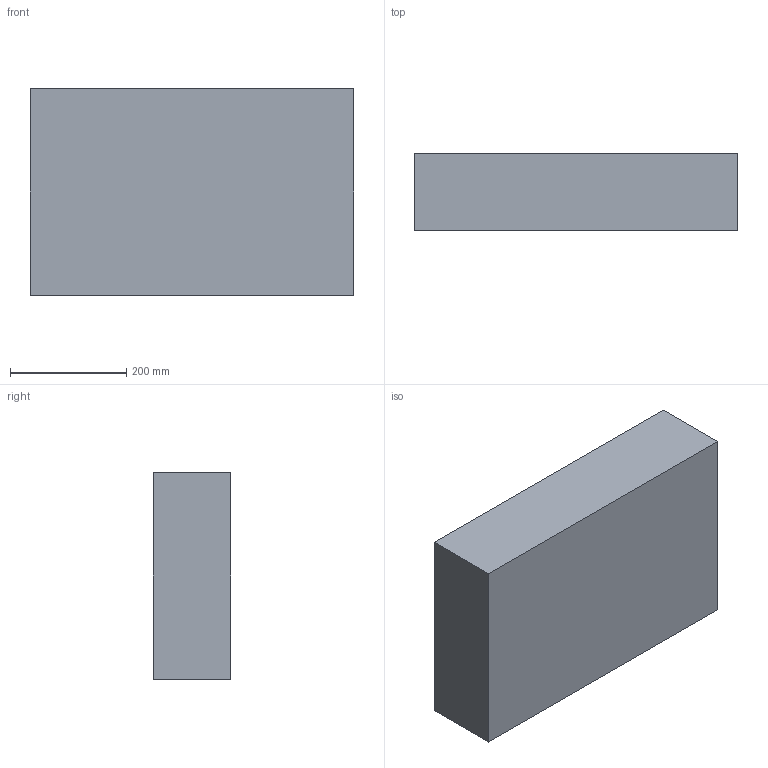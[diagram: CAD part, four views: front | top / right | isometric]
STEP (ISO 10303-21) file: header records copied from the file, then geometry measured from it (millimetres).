
FILE_DESCRIPTION (( 'STEP AP214' ), '1' );
FILE_NAME ('1525 Bottom Tub.STEP', '2019-02-13T20:59:40', ( '' ), ( '' ), 'SwSTEP 2.0', 'SolidWorks 2016', '' );
FILE_SCHEMA (( 'AUTOMOTIVE_DESIGN' ));
Length unit declared in the file: inch
Products named in the file (1): 1525 Bottom Tub
Bounding box: 557.83 x 133.16 x 354.79 mm (x, y, z)
Volume: 7795556 mm3; surface area: 814973.4 mm2
Topology: 1 solids, 1 shells, 386 faces, 987 edges, 610 vertices
Faces by surface type: bspline 141, cylinder 117, plane 70, torus 58
Entity records: 44635 total; most frequent: CARTESIAN_POINT 36609, ORIENTED_EDGE 1974, DIRECTION 1298, EDGE_CURVE 987, VERTEX_POINT 610, AXIS2_PLACEMENT_3D 502, EDGE_LOOP 393, ADVANCED_FACE 386
